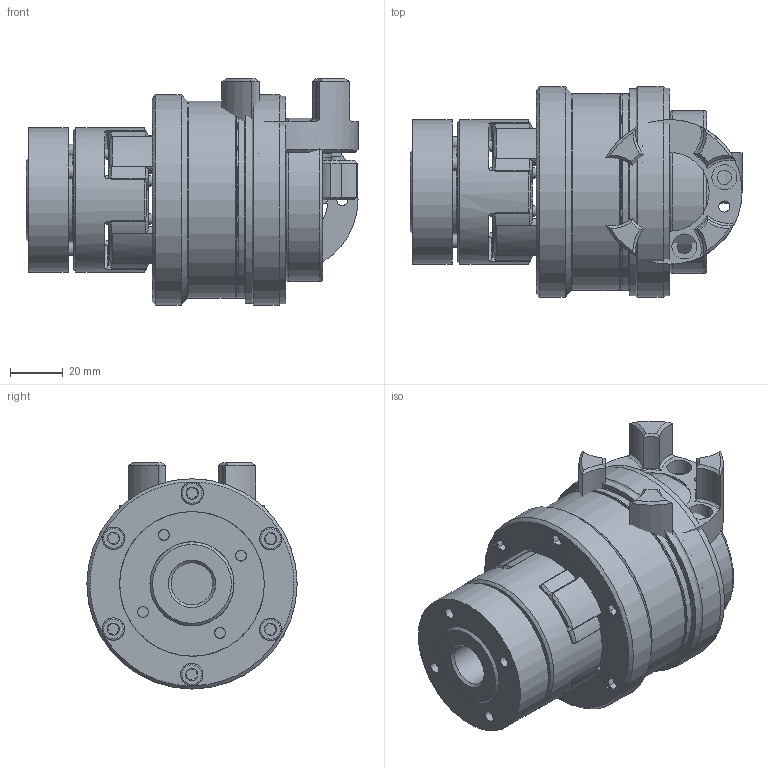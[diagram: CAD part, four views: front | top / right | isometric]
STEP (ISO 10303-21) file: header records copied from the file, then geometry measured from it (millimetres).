
FILE_DESCRIPTION( ( 'Unknown' ), '1' );
FILE_NAME( 'C:/Dokumente und Einstellungen/Sven/Desktop/hp kbk/E-AI/KBK EAI-24-98.stp', 'Unknown', ( 'Unknown' ), ( 'Unknown' ), 'XStep 1.0', 'Unknown', ' ' );
FILE_SCHEMA( ( 'automotive_design' ) );
Length unit declared in the file: millimetre
Products named in the file (17): Assem1; Assem2; ball_bearing_-_6007_0_01_0; ball_bearing_-_6007_0_02_0; ball_bearing_-_6007_0_03_0; KBK L-I-60 Grundkörper_0; Konusbuchse 60_0; a_35_0; Stellring 60_0; Druckring 60_0; Flansch 60_0; din_en_24017_m6x20_0; Elastomerflansch 24_0; Zahnkranz_24_Standard_0; KBE 3 - 24_Nabe; KBE3-24_Druckring_0; ISO EN DIN 4762_M5x20_0
Bounding box: 126.3 x 80 x 86 mm (x, y, z)
Volume: 587232.6 mm3; surface area: 264374.2 mm2
Topology: 47 solids, 47 shells, 1240 faces, 2678 edges, 1643 vertices
Faces by surface type: plane 397, cone 397, cylinder 364, torus 82
Full cylindrical faces by diameter (mm): 2.5 x4, 3.242 x6, 4 x22, 4.134 x12, 4.2 x12, 4.917 x18, 5 x11, 5.2 x12, 5.5 x8, 6 x7, 6.6 x12, 8.5 x23, 8.8 x7, 9.5 x8, 15 x4, 16 x2, 27 x4, 30 x4, 30.2 x2, 33 x2, 34.625 x2, 35 x7, 43.7 x6, 44 x2, 46 x4, 46.5 x2, 49.5 x2, 53.6 x6, 55 x6, 61.3 x2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
Entity records: 12978 total; most frequent: CARTESIAN_POINT 2877, DIRECTION 2204, ORIENTED_EDGE 1686, AXIS2_PLACEMENT_3D 1036, EDGE_CURVE 843, EDGE_LOOP 728, VERTEX_POINT 597, FACE_OUTER_BOUND 575
